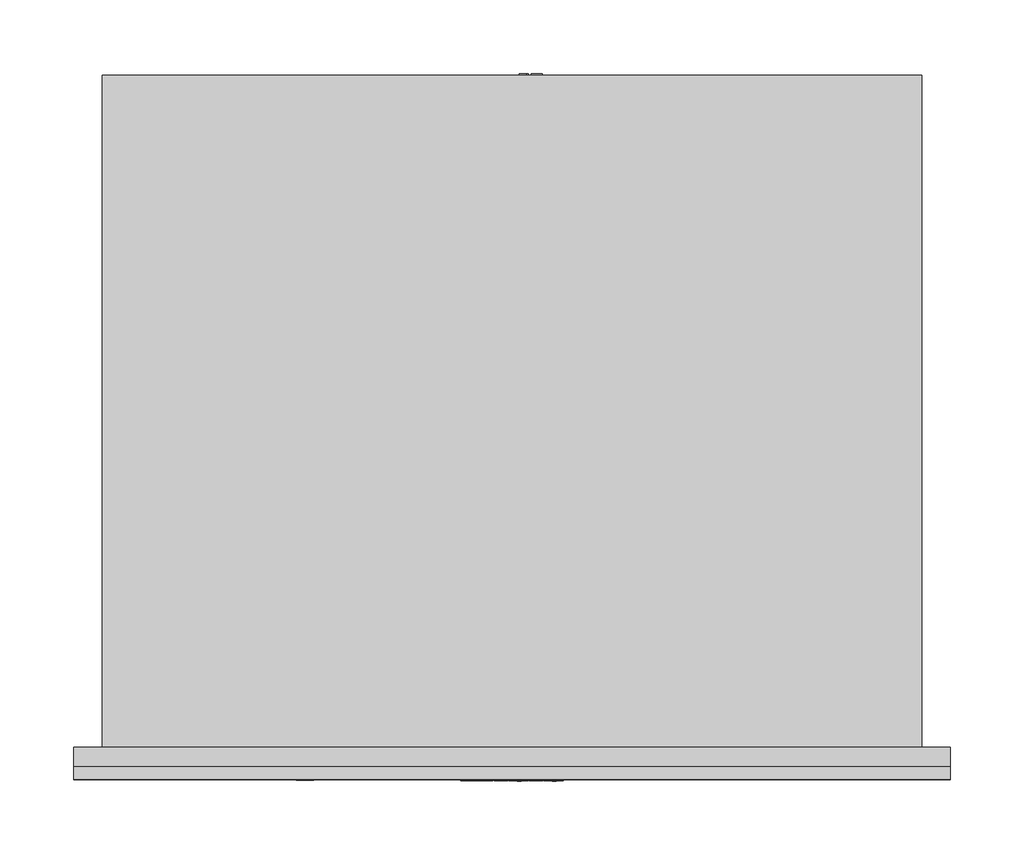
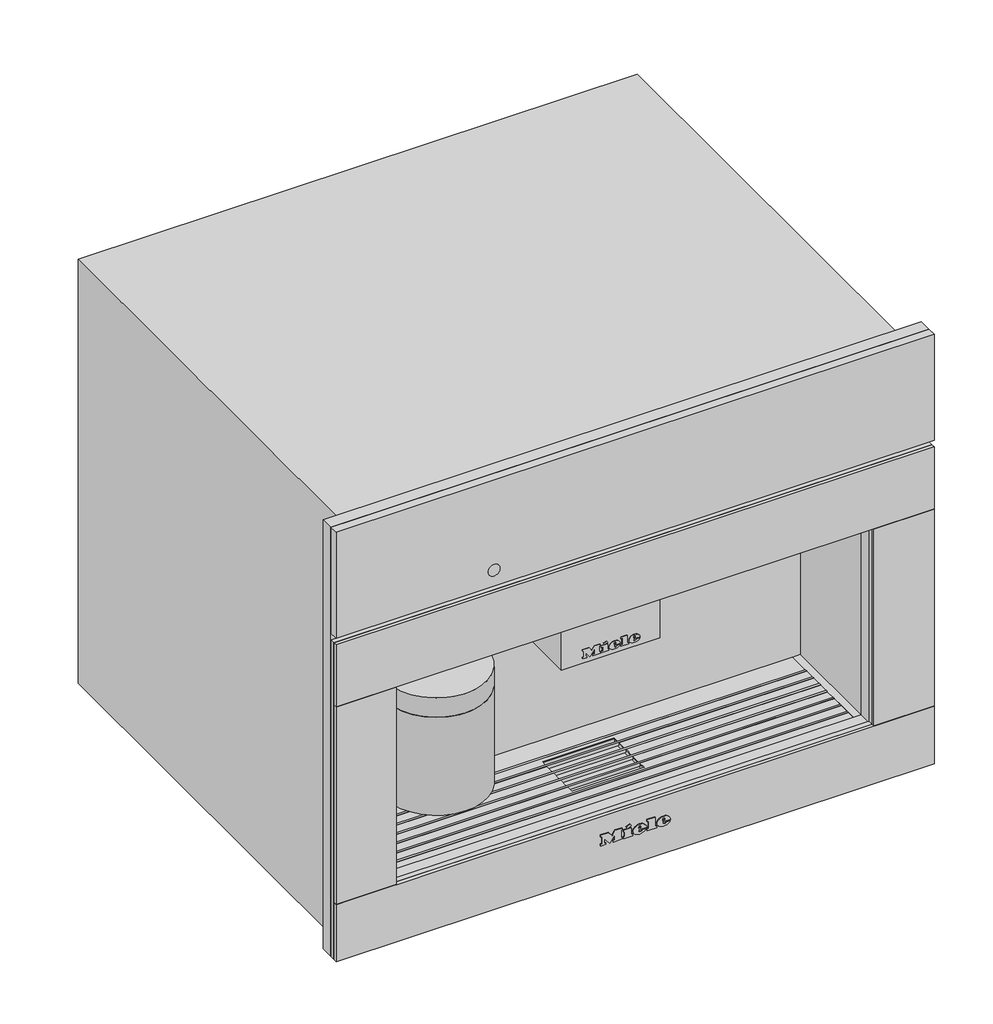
# Not in any storey: 1 proxy.
"""IFC4 building model written with IfcOpenShell, lengths in millimetres."""

from ifc_helpers import new_model, si_unit, origin, place, context, project, spatial, transform, mapped, element, save
from components import specialty_equipment_a78401e0

model = new_model("IFC4")

# Units and contexts
model_context = context("Model", 3, world=origin())
ifc_project = project(units=[si_unit("LENGTHUNIT", "METRE", prefix="MILLI")], contexts=[model_context])

# Site, building
site = spatial("IfcSite", under=ifc_project)
building = spatial("IfcBuilding", under=site)

# Proxy
placement = place(None, origin())
specialty_equipment_shape = specialty_equipment_a78401e0(model_context)
element("IfcBuildingElementProxy", 1, Name="11163900_EU1_CVA7440_OBSW : 29744020_EU1_11163900_CVA7440_OBSW", ObjectType="11163900_EU1_CVA7440_OBSW : 29744020_EU1_11163900_CVA7440_OBSW", at=placement, inside=building, context=model_context, shape_type="MappedRepresentation", body=[
    mapped(specialty_equipment_shape, transform((0.0, 0.0, 0.0), x_axis=(1.0, 0.0, 0.0), y_axis=(0.0, 1.0, 0.0), z_axis=(0.0, 0.0, 1.0))),
])

save(model, "model.ifc")
